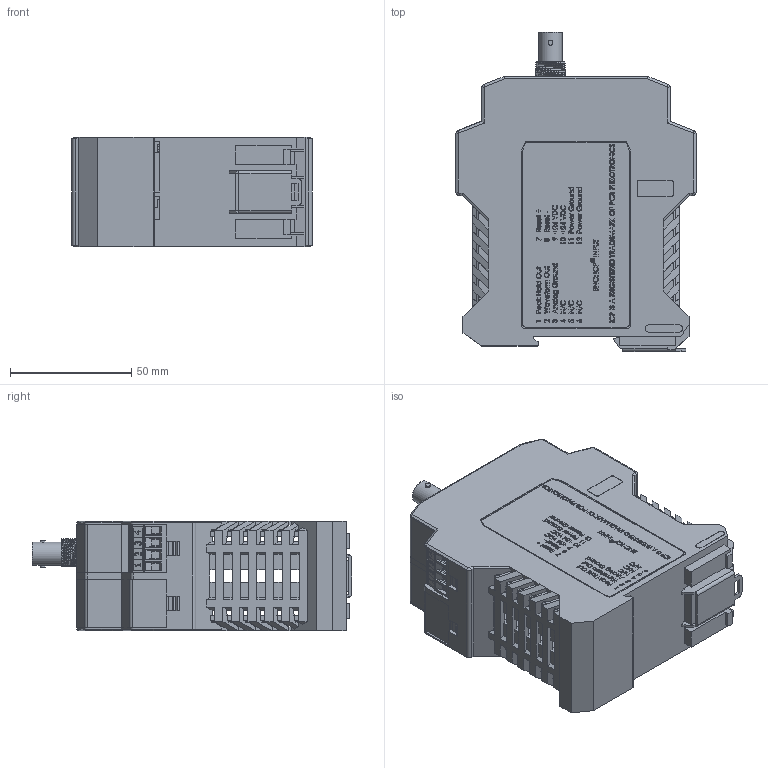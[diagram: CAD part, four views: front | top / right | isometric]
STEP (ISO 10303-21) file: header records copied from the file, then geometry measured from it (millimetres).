
FILE_DESCRIPTION(/* description */ (''),/* implementation_level */ '2;1');
FILE_NAME(/* name */ 'C:\Users\kreumann\Desktop\STEP FILES\410C01\410C01.stp',/* time_stamp */ '2019-08-23T07:59:06-04:00',/* author */ ('kreumann'),/* organization */ (''),/* preprocessor_version */ 'ST-DEVELOPER v17',/* originating_system */ 'Autodesk Inventor 2019',/* authorisation */ '');
FILE_SCHEMA (('AUTOMOTIVE_DESIGN { 1 0 10303 214 3 1 1 }'));
Products named in the file (1): 410C01 ENVELOPE
Bounding box: 99 x 131.42 x 45.2 mm (x, y, z)
Volume: 132043.5 mm3; surface area: 132285.6 mm2
Topology: 1 solids, 8 shells, 8783 faces, 24196 edges, 15928 vertices
Faces by surface type: plane 6453, bspline 1838, cylinder 442, torus 21, cone 17, sphere 12
Full cylindrical faces by diameter (mm): 0.381 x9, 0.68 x4, 1.4 x12, 1.8 x4, 1.9 x4, 1.981 x2, 2 x4, 2.134 x1, 2.8 x9, 2.9 x3, 3.783 x12, 4 x12, 4.72 x1, 6.5 x1, 9.6 x1
Entity records: 320029 total; most frequent: CARTESIAN_POINT 98793, ORIENTED_EDGE 48376, DIRECTION 35496, EDGE_CURVE 24179, LINE 19332, VECTOR 19332, VERTEX_POINT 15928, EDGE_LOOP 9673
